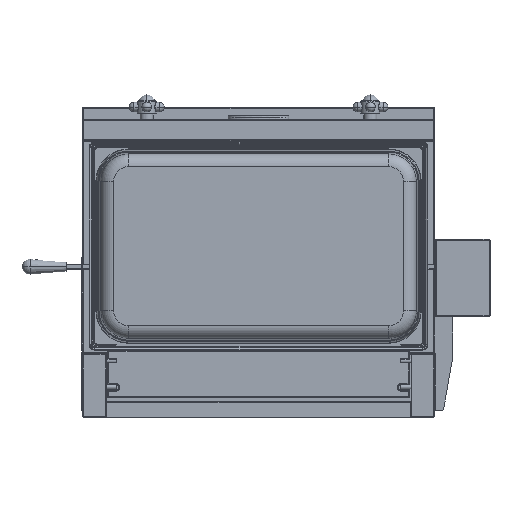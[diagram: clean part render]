
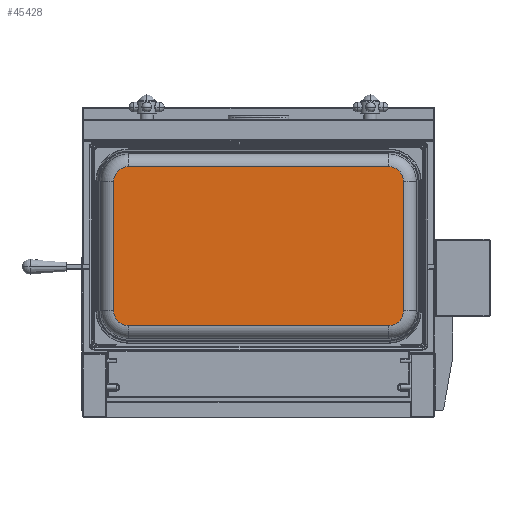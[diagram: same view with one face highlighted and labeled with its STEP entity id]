
A CAD part, front view. The second image highlights one B-rep face of the part: STEP entity #45428.
In plain terms, the highlighted planar face has unit normal (0, -1, 0).
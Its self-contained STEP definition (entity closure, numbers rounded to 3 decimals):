
#43285=DIRECTION('',(1.,0.,0.));
#43286=VECTOR('',#43285,407.);
#43287=CARTESIAN_POINT('',(-203.5,-65.,-124.289));
#43288=LINE('',#43287,#43286);
#43289=CARTESIAN_POINT('',(-203.5,-65.,-101.));
#43290=DIRECTION('',(0.,-1.,0.));
#43291=DIRECTION('',(-1.,0.,0.));
#43292=AXIS2_PLACEMENT_3D('',#43289,#43290,#43291);
#43294=DIRECTION('',(0.,0.,-1.));
#43295=VECTOR('',#43294,202.);
#43296=CARTESIAN_POINT('',(-226.789,-65.,101.));
#43297=LINE('',#43296,#43295);
#43298=CARTESIAN_POINT('',(-203.5,-65.,101.));
#43299=DIRECTION('',(0.,-1.,0.));
#43300=DIRECTION('',(0.,0.,1.));
#43301=AXIS2_PLACEMENT_3D('',#43298,#43299,#43300);
#43303=DIRECTION('',(-1.,0.,0.));
#43304=VECTOR('',#43303,407.);
#43305=CARTESIAN_POINT('',(203.5,-65.,124.289));
#43306=LINE('',#43305,#43304);
#43307=CARTESIAN_POINT('',(203.5,-65.,101.));
#43308=DIRECTION('',(0.,-1.,0.));
#43309=DIRECTION('',(1.,0.,0.));
#43310=AXIS2_PLACEMENT_3D('',#43307,#43308,#43309);
#43312=DIRECTION('',(0.,0.,1.));
#43313=VECTOR('',#43312,202.);
#43314=CARTESIAN_POINT('',(226.789,-65.,-101.));
#43315=LINE('',#43314,#43313);
#43316=CARTESIAN_POINT('',(203.5,-65.,-101.));
#43317=DIRECTION('',(0.,-1.,0.));
#43318=DIRECTION('',(0.,0.,-1.));
#43319=AXIS2_PLACEMENT_3D('',#43316,#43317,#43318);
#45005=CARTESIAN_POINT('',(-203.5,-65.,-124.289));
#45006=CARTESIAN_POINT('',(203.5,-65.,-124.289));
#45007=VERTEX_POINT('',#45005);
#45008=VERTEX_POINT('',#45006);
#45009=CARTESIAN_POINT('',(226.789,-65.,-101.));
#45010=VERTEX_POINT('',#45009);
#45011=CARTESIAN_POINT('',(226.789,-65.,101.));
#45012=VERTEX_POINT('',#45011);
#45013=CARTESIAN_POINT('',(203.5,-65.,124.289));
#45014=VERTEX_POINT('',#45013);
#45015=CARTESIAN_POINT('',(-203.5,-65.,124.289));
#45016=VERTEX_POINT('',#45015);
#45017=CARTESIAN_POINT('',(-226.789,-65.,101.));
#45018=VERTEX_POINT('',#45017);
#45019=CARTESIAN_POINT('',(-226.789,-65.,-101.));
#45020=VERTEX_POINT('',#45019);
#45405=CARTESIAN_POINT('',(0.,-65.,0.));
#45406=DIRECTION('',(0.,1.,0.));
#45407=DIRECTION('',(1.,0.,0.));
#45408=AXIS2_PLACEMENT_3D('',#45405,#45406,#45407);
#45409=PLANE('',#45408);
#45411=ORIENTED_EDGE('',*,*,#45410,.F.);
#45413=ORIENTED_EDGE('',*,*,#45412,.F.);
#45415=ORIENTED_EDGE('',*,*,#45414,.F.);
#45417=ORIENTED_EDGE('',*,*,#45416,.F.);
#45419=ORIENTED_EDGE('',*,*,#45418,.F.);
#45421=ORIENTED_EDGE('',*,*,#45420,.F.);
#45423=ORIENTED_EDGE('',*,*,#45422,.F.);
#45425=ORIENTED_EDGE('',*,*,#45424,.F.);
#45426=EDGE_LOOP('',(#45411,#45413,#45415,#45417,#45419,#45421,#45423,#45425));
#45427=FACE_OUTER_BOUND('',#45426,.F.);
#43293=CIRCLE('',#43292,23.289);
#43302=CIRCLE('',#43301,23.289);
#43311=CIRCLE('',#43310,23.289);
#43320=CIRCLE('',#43319,23.289);
#45410=EDGE_CURVE('',#45007,#45008,#43288,.T.);
#45412=EDGE_CURVE('',#45020,#45007,#43293,.T.);
#45414=EDGE_CURVE('',#45018,#45020,#43297,.T.);
#45416=EDGE_CURVE('',#45016,#45018,#43302,.T.);
#45418=EDGE_CURVE('',#45014,#45016,#43306,.T.);
#45420=EDGE_CURVE('',#45012,#45014,#43311,.T.);
#45422=EDGE_CURVE('',#45010,#45012,#43315,.T.);
#45424=EDGE_CURVE('',#45008,#45010,#43320,.T.);
#45428=ADVANCED_FACE('',(#45427),#45409,.F.);
